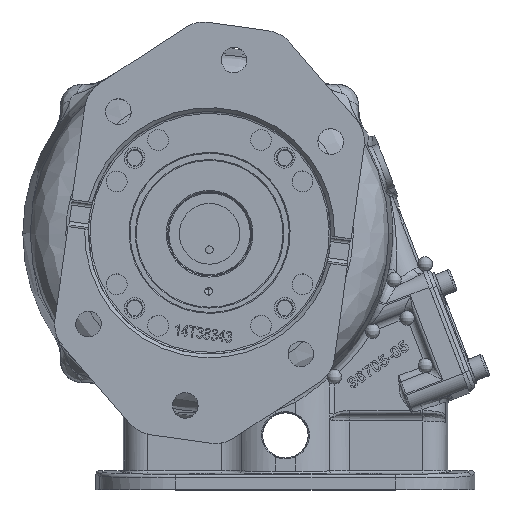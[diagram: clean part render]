
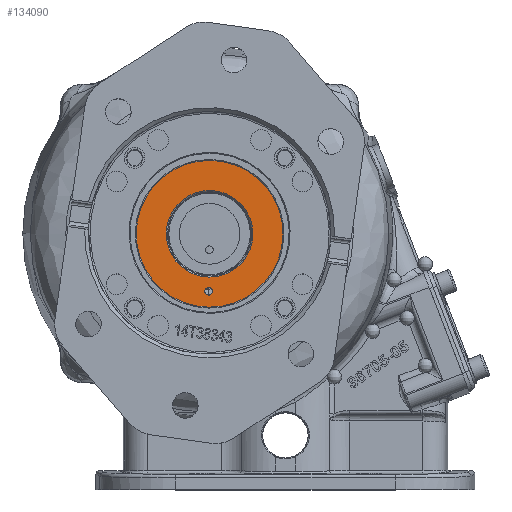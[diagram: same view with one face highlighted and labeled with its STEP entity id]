
A CAD part, top view. The second image highlights one B-rep face of the part: STEP entity #134090.
In plain terms, the highlighted planar face has unit normal (0, 0, 1) as drawn and (0, 0, -1) by its records, which use the part's own axes.
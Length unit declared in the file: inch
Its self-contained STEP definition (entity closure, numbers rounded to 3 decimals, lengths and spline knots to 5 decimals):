
#481 = EDGE_LOOP ( 'NONE', ( #19026, #29199 ) ) ;
#920 = VERTEX_POINT ( 'NONE', #164809 ) ;
#5127 = CIRCLE ( 'NONE', #29151, 1.21 ) ;
#6254 = CARTESIAN_POINT ( 'NONE',  ( 0., 0., 0.729 ) ) ;
#6571 = DIRECTION ( 'NONE',  ( 0., 0., -1. ) ) ;
#8774 = CIRCLE ( 'NONE', #112570, 0.71375 ) ;
#10929 = AXIS2_PLACEMENT_3D ( 'NONE', #60522, #100471, #98022 ) ;
#17136 = CARTESIAN_POINT ( 'NONE',  ( 0., 0., 0.729 ) ) ;
#19026 = ORIENTED_EDGE ( 'NONE', *, *, #62469, .F. ) ;
#20706 = EDGE_CURVE ( 'NONE', #920, #99465, #145533, .T. ) ;
#21569 = PLANE ( 'NONE',  #69316 ) ;
#28936 = CARTESIAN_POINT ( 'NONE',  ( 0.0625, -0.95, 0.729 ) ) ;
#29151 = AXIS2_PLACEMENT_3D ( 'NONE', #66572, #6571, #156510 ) ;
#29199 = ORIENTED_EDGE ( 'NONE', *, *, #40999, .F. ) ;
#39073 = CARTESIAN_POINT ( 'NONE',  ( -0.0625, -0.95, 0.729 ) ) ;
#40999 = EDGE_CURVE ( 'NONE', #137968, #58552, #51412, .T. ) ;
#42135 = CARTESIAN_POINT ( 'NONE',  ( 0., 0., 0.729 ) ) ;
#43778 = DIRECTION ( 'NONE',  ( 0., 0., -1. ) ) ;
#48260 = CIRCLE ( 'NONE', #69561, 1.21 ) ;
#51412 = CIRCLE ( 'NONE', #139123, 0.0625 ) ;
#56221 = DIRECTION ( 'NONE',  ( 0., 0., 1. ) ) ;
#58552 = VERTEX_POINT ( 'NONE', #39073 ) ;
#60522 = CARTESIAN_POINT ( 'NONE',  ( 0., -0.95, 0.729 ) ) ;
#62469 = EDGE_CURVE ( 'NONE', #58552, #137968, #117252, .T. ) ;
#63176 = CARTESIAN_POINT ( 'NONE',  ( 0., 0.71375, 0.729 ) ) ;
#63260 = CARTESIAN_POINT ( 'NONE',  ( -1.21, 0., 0.729 ) ) ;
#65136 = VERTEX_POINT ( 'NONE', #63260 ) ;
#66572 = CARTESIAN_POINT ( 'NONE',  ( 0., 0., 0.729 ) ) ;
#69316 = AXIS2_PLACEMENT_3D ( 'NONE', #98197, #72381, #123189 ) ;
#69561 = AXIS2_PLACEMENT_3D ( 'NONE', #42135, #43778, #118731 ) ;
#72381 = DIRECTION ( 'NONE',  ( 0., 0., -1. ) ) ;
#84959 = DIRECTION ( 'NONE',  ( 0., 0., -1. ) ) ;
#93365 = ORIENTED_EDGE ( 'NONE', *, *, #146531, .T. ) ;
#94724 = EDGE_CURVE ( 'NONE', #65136, #127239, #5127, .T. ) ;
#94991 = AXIS2_PLACEMENT_3D ( 'NONE', #17136, #129578, #130392 ) ;
#97186 = ORIENTED_EDGE ( 'NONE', *, *, #20706, .T. ) ;
#97463 = DIRECTION ( 'NONE',  ( -1., 0., 0. ) ) ;
#98022 = DIRECTION ( 'NONE',  ( -1., 0., 0. ) ) ;
#98197 = CARTESIAN_POINT ( 'NONE',  ( 0., 0., 0.729 ) ) ;
#99465 = VERTEX_POINT ( 'NONE', #63176 ) ;
#100471 = DIRECTION ( 'NONE',  ( 0., 0., -1. ) ) ;
#100962 = CARTESIAN_POINT ( 'NONE',  ( 1.21, 0., 0.729 ) ) ;
#102438 = EDGE_CURVE ( 'NONE', #127239, #65136, #48260, .T. ) ;
#106644 = EDGE_LOOP ( 'NONE', ( #131670, #124201 ) ) ;
#107839 = DIRECTION ( 'NONE',  ( -1., 0., 0. ) ) ;
#112570 = AXIS2_PLACEMENT_3D ( 'NONE', #6254, #56221, #107839 ) ;
#113316 = EDGE_LOOP ( 'NONE', ( #93365, #97186 ) ) ;
#117252 = CIRCLE ( 'NONE', #10929, 0.0625 ) ;
#118731 = DIRECTION ( 'NONE',  ( -1., 0., 0. ) ) ;
#123189 = DIRECTION ( 'NONE',  ( -1., 0., 0. ) ) ;
#123281 = CARTESIAN_POINT ( 'NONE',  ( 0., -0.95, 0.729 ) ) ;
#124201 = ORIENTED_EDGE ( 'NONE', *, *, #102438, .T. ) ;
#127239 = VERTEX_POINT ( 'NONE', #100962 ) ;
#129578 = DIRECTION ( 'NONE',  ( 0., 0., 1. ) ) ;
#130392 = DIRECTION ( 'NONE',  ( -1., 0., 0. ) ) ;
#131670 = ORIENTED_EDGE ( 'NONE', *, *, #94724, .T. ) ;
#134090 = ADVANCED_FACE ( 'NONE', ( #163964, #136487, #160689 ), #21569, .T. ) ;
#136487 = FACE_OUTER_BOUND ( 'NONE', #106644, .T. ) ;
#137968 = VERTEX_POINT ( 'NONE', #28936 ) ;
#139123 = AXIS2_PLACEMENT_3D ( 'NONE', #123281, #84959, #97463 ) ;
#145533 = CIRCLE ( 'NONE', #94991, 0.71375 ) ;
#146531 = EDGE_CURVE ( 'NONE', #99465, #920, #8774, .T. ) ;
#156510 = DIRECTION ( 'NONE',  ( -1., 0., 0. ) ) ;
#160689 = FACE_BOUND ( 'NONE', #481, .T. ) ;
#163964 = FACE_BOUND ( 'NONE', #113316, .T. ) ;
#164809 = CARTESIAN_POINT ( 'NONE',  ( 0., -0.71375, 0.729 ) ) ;
